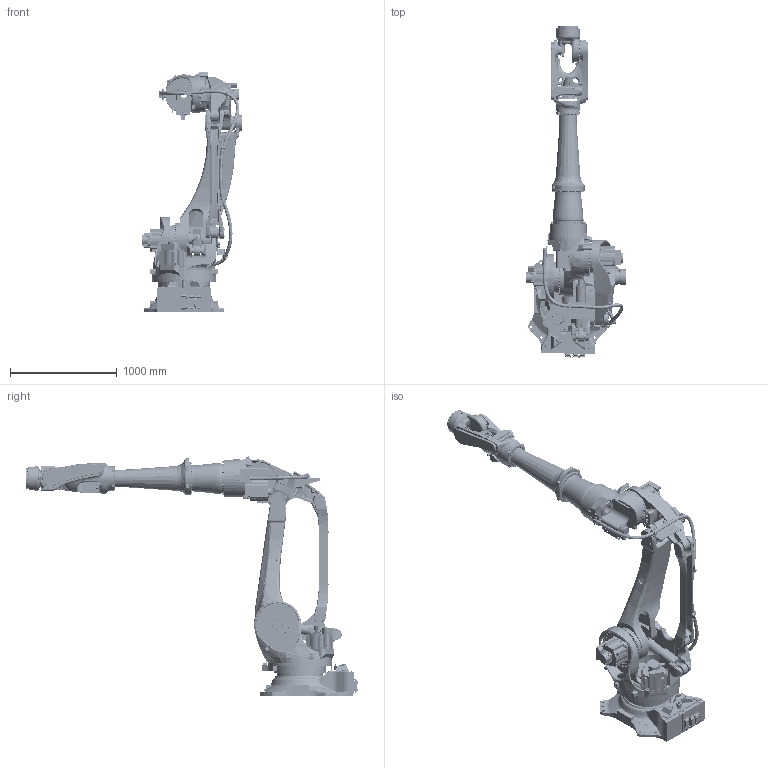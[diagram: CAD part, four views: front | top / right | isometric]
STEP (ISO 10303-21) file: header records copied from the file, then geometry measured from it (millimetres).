
FILE_DESCRIPTION(('CATIA V5 STEP Exchange'),'2;1');
FILE_NAME('D:\モデリング\☆☆☆STEP\BX\BX200\BX200X-C001_180621_191004_200629\BX200X-C001_200629\BX200X-C001.stp','2020-06-30T04:09:06+00:00',('none'),('none'),'CATIA Version 5-6 Release 2016 SP6 HF14','CATIA V5 STEP AP203','none');
FILE_SCHEMA(('CONFIG_CONTROL_DESIGN'));
Products named in the file (1): BX200X-C001
Assembly tree (12 placements, depth 2):
  BX200X-C001
    #57
    #44566
    #107484
    #140217
    #180564
    #286454
    #335609
    #339117
    #377198
    #403413
    #406553
    #408714
Bounding box: 937.05 x 3113.76 x 2247.04 mm (x, y, z)
Volume: 324857595.7 mm3; surface area: 15444449.2 mm2
Topology: 31 solids, 33 shells, 9123 faces, 23238 edges, 14606 vertices
Faces by surface type: cylinder 3298, plane 3175, bspline 1303, cone 667, torus 332, extrusion 132, revolution 115, sphere 101
Entity records: 411471 total; most frequent: CARTESIAN_POINT 215586, ORIENTED_EDGE 45724, DIRECTION 29177, EDGE_CURVE 22862, VERTEX_POINT 14600, AXIS2_PLACEMENT_3D 13395, EDGE_LOOP 10168, VECTOR 9270
